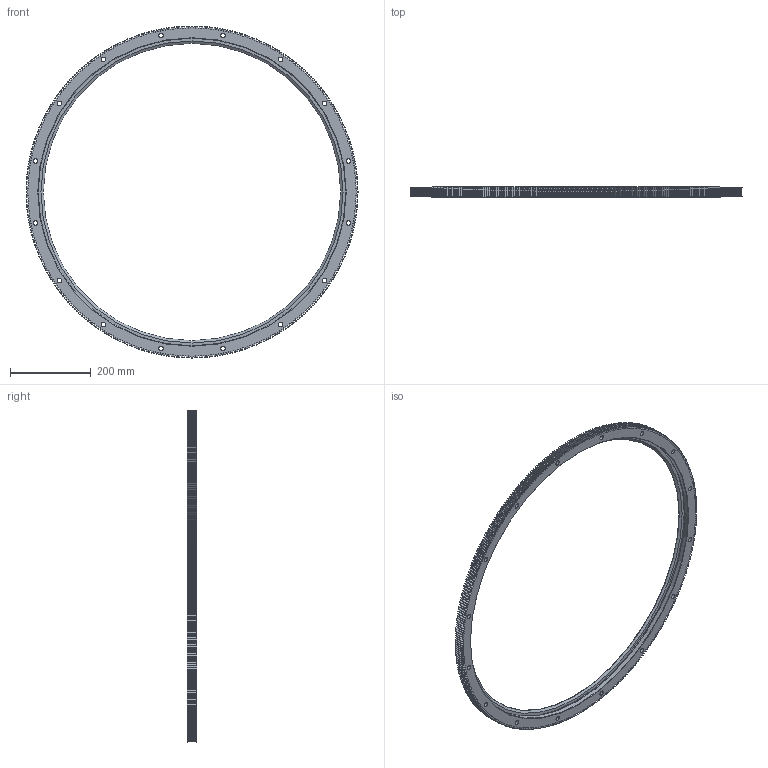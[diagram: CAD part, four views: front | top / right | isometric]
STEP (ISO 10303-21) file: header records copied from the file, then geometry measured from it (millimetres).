
FILE_DESCRIPTION( ( 'STEP AP203' ), '1' );
FILE_NAME( 'p:/temp/worker_12/temp/exporttempdir_2752_362_3eTi4/format_0/RIL 820 R360 P.stp', '2021-09-21T06:36:54', ( 'License CC BY-ND 4.0' ), ( 'CADENAS' ), ' ', 'PARTsolutions', ' ' );
FILE_SCHEMA( ( 'CONFIG_CONTROL_DESIGN' ) );
Length unit declared in the file: millimetre
Products named in the file (1): _RIL 820 R360 P
Bounding box: 820 x 24 x 820 mm (x, y, z)
Volume: 1799190 mm3; surface area: 383862.7 mm2
Topology: 1 solids, 1 shells, 2522 faces, 7487 edges, 4985 vertices
Faces by surface type: plane 1652, cylinder 442, cone 427, torus 1
Full cylindrical faces by diameter (mm): 11 x16, 18 x16, 760 x1, 761.2 x1
Entity records: 84570 total; most frequent: CARTESIAN_POINT 17389, ORIENTED_EDGE 14866, DIRECTION 12976, EDGE_CURVE 7433, LINE 5304, VECTOR 5304, VERTEX_POINT 4985, AXIS2_PLACEMENT_3D 3836
